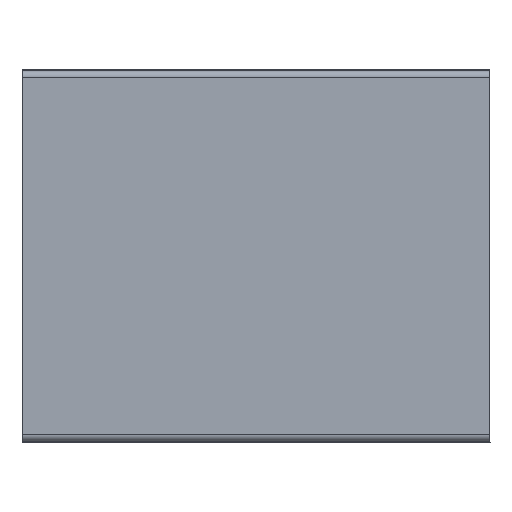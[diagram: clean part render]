
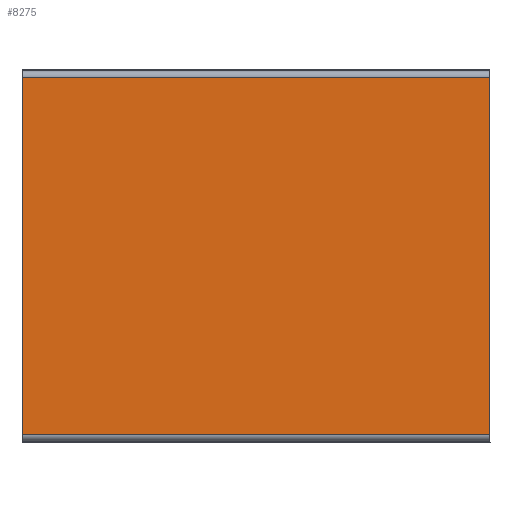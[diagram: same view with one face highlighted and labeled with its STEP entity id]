
A CAD part, front view. The second image highlights one B-rep face of the part: STEP entity #8275.
In plain terms, the highlighted planar face has unit normal (0, -1, 0) as drawn and (0, 1, 0) by its records, which use the part's own axes.
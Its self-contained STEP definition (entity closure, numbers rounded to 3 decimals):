
#224 = VECTOR ( 'NONE', #17132, 1000. ) ;
#1927 = CARTESIAN_POINT ( 'NONE',  ( -285.6, 3.7, 109.001 ) ) ;
#2022 = DIRECTION ( 'NONE',  ( 0., 1., 0. ) ) ;
#3384 = DIRECTION ( 'NONE',  ( 0., 0., 1. ) ) ;
#3980 = LINE ( 'NONE', #17416, #224 ) ;
#4025 = VECTOR ( 'NONE', #5553, 1000. ) ;
#4730 = EDGE_CURVE ( 'NONE', #14319, #9712, #3980, .T. ) ;
#5119 = ORIENTED_EDGE ( 'NONE', *, *, #14518, .T. ) ;
#5142 = LINE ( 'NONE', #15194, #6656 ) ;
#5553 = DIRECTION ( 'NONE',  ( 0., 0., 1. ) ) ;
#6211 = CARTESIAN_POINT ( 'NONE',  ( -285.6, 3.7, -109.001 ) ) ;
#6656 = VECTOR ( 'NONE', #10892, 1000. ) ;
#7417 = ORIENTED_EDGE ( 'NONE', *, *, #4730, .F. ) ;
#7857 = FACE_OUTER_BOUND ( 'NONE', #11897, .T. ) ;
#8237 = ORIENTED_EDGE ( 'NONE', *, *, #10710, .F. ) ;
#8275 = ADVANCED_FACE ( 'NONE', ( #7857 ), #9411, .T. ) ;
#8439 = CARTESIAN_POINT ( 'NONE',  ( 0., 3.7, -109.001 ) ) ;
#9411 = PLANE ( 'NONE',  #17276 ) ;
#9712 = VERTEX_POINT ( 'NONE', #11475 ) ;
#10141 = CARTESIAN_POINT ( 'NONE',  ( -285.6, 3.7, 109.001 ) ) ;
#10285 = LINE ( 'NONE', #16234, #11674 ) ;
#10575 = DIRECTION ( 'NONE',  ( 1., 0., 0. ) ) ;
#10710 = EDGE_CURVE ( 'NONE', #13998, #14319, #5142, .T. ) ;
#10892 = DIRECTION ( 'NONE',  ( 1., 0., 0. ) ) ;
#11475 = CARTESIAN_POINT ( 'NONE',  ( 0., 3.7, 109.001 ) ) ;
#11674 = VECTOR ( 'NONE', #10575, 1000. ) ;
#11897 = EDGE_LOOP ( 'NONE', ( #7417, #8237, #13407, #5119 ) ) ;
#11902 = LINE ( 'NONE', #10141, #4025 ) ;
#13407 = ORIENTED_EDGE ( 'NONE', *, *, #15907, .T. ) ;
#13998 = VERTEX_POINT ( 'NONE', #6211 ) ;
#14319 = VERTEX_POINT ( 'NONE', #8439 ) ;
#14518 = EDGE_CURVE ( 'NONE', #15004, #9712, #10285, .T. ) ;
#15004 = VERTEX_POINT ( 'NONE', #17798 ) ;
#15194 = CARTESIAN_POINT ( 'NONE',  ( -285.6, 3.7, -109.001 ) ) ;
#15907 = EDGE_CURVE ( 'NONE', #13998, #15004, #11902, .T. ) ;
#16234 = CARTESIAN_POINT ( 'NONE',  ( -285.6, 3.7, 109.001 ) ) ;
#17132 = DIRECTION ( 'NONE',  ( 0., 0., 1. ) ) ;
#17276 = AXIS2_PLACEMENT_3D ( 'NONE', #1927, #2022, #3384 ) ;
#17416 = CARTESIAN_POINT ( 'NONE',  ( 0., 3.7, 109.001 ) ) ;
#17798 = CARTESIAN_POINT ( 'NONE',  ( -285.6, 3.7, 109.001 ) ) ;
